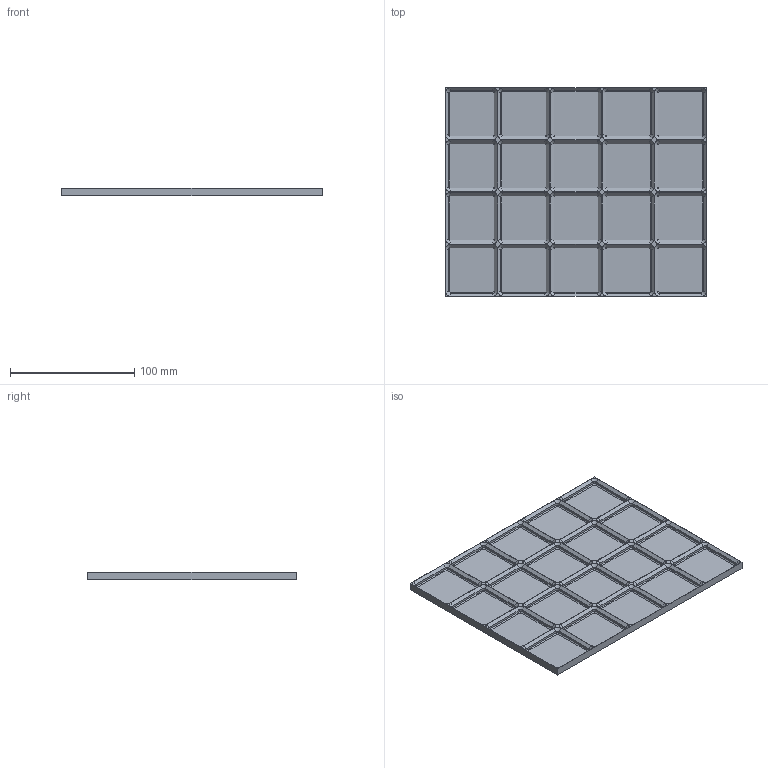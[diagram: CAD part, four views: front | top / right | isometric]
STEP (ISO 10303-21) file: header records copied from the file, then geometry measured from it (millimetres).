
FILE_DESCRIPTION(('Open CASCADE Model'),'2;1');
FILE_NAME('Open CASCADE Shape Model','2026-11-03T10:34:21',('Author'),( 'Open CASCADE'),'Open CASCADE STEP processor 8.0','build123d', 'Unknown');
FILE_SCHEMA(('AUTOMOTIVE_DESIGN { 1 0 10303 214 1 1 1 1 }'));
Length unit declared in the file: millimetre
Products named in the file (1): COMPOUND
Bounding box: 210 x 168 x 6.25 mm (x, y, z)
Volume: 80375.6 mm3; surface area: 84385.8 mm2
Topology: 1 solids, 1 shells, 666 faces, 1452 edges, 808 vertices
Faces by surface type: plane 346, cylinder 160, cone 160
Entity records: 35322 total; most frequent: CARTESIAN_POINT 7671, DIRECTION 4650, ORIENTED_EDGE 2904, PCURVE 2904, DEFINITIONAL_REPRESENTATION 2904, LINE 2436, VECTOR 2436, EDGE_CURVE 1452
